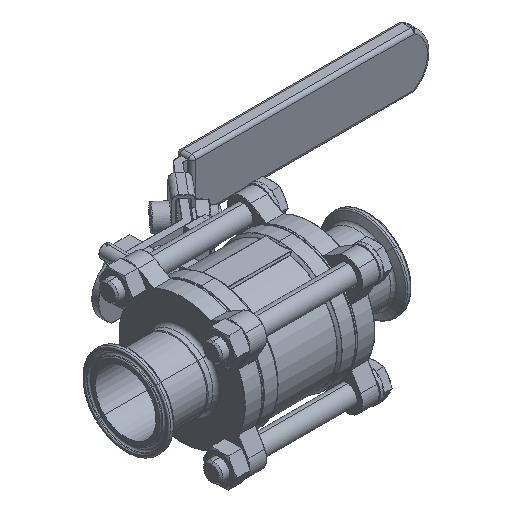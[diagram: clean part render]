
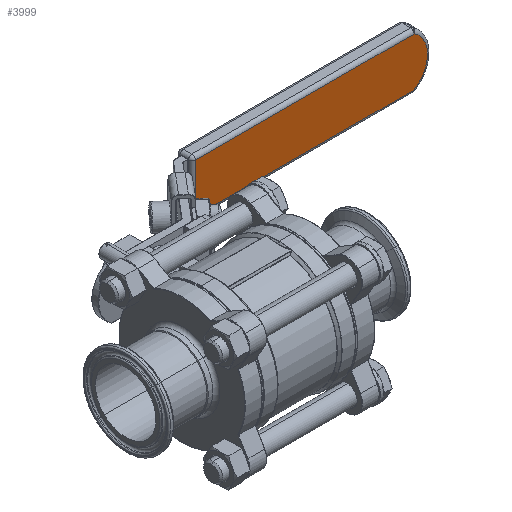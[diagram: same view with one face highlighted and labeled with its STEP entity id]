
A CAD part, isometric view. The second image highlights one B-rep face of the part: STEP entity #3999.
In plain terms, the highlighted planar face has unit normal (0, -1, 0) as drawn and (0, 0, 1) by its records, which use the part's own axes.
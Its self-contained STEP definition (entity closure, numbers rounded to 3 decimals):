
#82 = CARTESIAN_POINT ( 'NONE',  ( 2., -14., 4.5 ) ) ;
#982 = DIRECTION ( 'NONE',  ( 0., 0., 1. ) ) ;
#1022 = DIRECTION ( 'NONE',  ( 0., -1., 0. ) ) ;
#1070 = AXIS2_PLACEMENT_3D ( 'NONE', #10962, #982, #16937 ) ;
#1291 = EDGE_CURVE ( 'NONE', #12249, #3716, #9100, .T. ) ;
#1762 = VECTOR ( 'NONE', #11002, 1000. ) ;
#3573 = VECTOR ( 'NONE', #22914, 1000. ) ;
#3716 = VERTEX_POINT ( 'NONE', #82 ) ;
#3999 = ADVANCED_FACE ( 'NONE', ( #14356 ), #13598, .T. ) ;
#4102 = CARTESIAN_POINT ( 'NONE',  ( 2., 14., 4.5 ) ) ;
#4718 = EDGE_CURVE ( 'NONE', #18287, #12249, #18422, .T. ) ;
#5265 = DIRECTION ( 'NONE',  ( 1., 0., 0. ) ) ;
#7141 = ORIENTED_EDGE ( 'NONE', *, *, #14246, .T. ) ;
#7172 = ORIENTED_EDGE ( 'NONE', *, *, #1291, .T. ) ;
#7188 = CIRCLE ( 'NONE', #25395, 16.5 ) ;
#7727 = CIRCLE ( 'NONE', #11354, 16.5 ) ;
#8417 = CARTESIAN_POINT ( 'NONE',  ( 0., -14., 4.5 ) ) ;
#9100 = LINE ( 'NONE', #22955, #20130 ) ;
#10034 = DIRECTION ( 'NONE',  ( 1., 0., 0. ) ) ;
#10962 = CARTESIAN_POINT ( 'NONE',  ( 0., 0., 4.5 ) ) ;
#11002 = DIRECTION ( 'NONE',  ( -1., 0., 0. ) ) ;
#11214 = CARTESIAN_POINT ( 'NONE',  ( 128.232, 14., 4.5 ) ) ;
#11354 = AXIS2_PLACEMENT_3D ( 'NONE', #17269, #25528, #5265 ) ;
#12069 = ORIENTED_EDGE ( 'NONE', *, *, #20742, .T. ) ;
#12148 = EDGE_CURVE ( 'NONE', #26027, #24455, #7188, .T. ) ;
#12249 = VERTEX_POINT ( 'NONE', #4102 ) ;
#12987 = EDGE_LOOP ( 'NONE', ( #23184, #7172, #12069, #25112, #7141 ) ) ;
#13598 = PLANE ( 'NONE',  #1070 ) ;
#14246 = EDGE_CURVE ( 'NONE', #24455, #18287, #7727, .T. ) ;
#14356 = FACE_OUTER_BOUND ( 'NONE', #12987, .T. ) ;
#16937 = DIRECTION ( 'NONE',  ( 1., 0., 0. ) ) ;
#17269 = CARTESIAN_POINT ( 'NONE',  ( 119.5, 0., 4.5 ) ) ;
#18287 = VERTEX_POINT ( 'NONE', #11214 ) ;
#18422 = LINE ( 'NONE', #19472, #1762 ) ;
#19472 = CARTESIAN_POINT ( 'NONE',  ( 0., 14., 4.5 ) ) ;
#19817 = CARTESIAN_POINT ( 'NONE',  ( 136., 0., 4.5 ) ) ;
#20130 = VECTOR ( 'NONE', #1022, 1000. ) ;
#20232 = LINE ( 'NONE', #8417, #3573 ) ;
#20742 = EDGE_CURVE ( 'NONE', #3716, #26027, #20232, .T. ) ;
#21198 = CARTESIAN_POINT ( 'NONE',  ( 128.232, -14., 4.5 ) ) ;
#21636 = CARTESIAN_POINT ( 'NONE',  ( 119.5, 0., 4.5 ) ) ;
#22073 = DIRECTION ( 'NONE',  ( 0., 0., 1. ) ) ;
#22914 = DIRECTION ( 'NONE',  ( 1., 0., 0. ) ) ;
#22955 = CARTESIAN_POINT ( 'NONE',  ( 2., 0., 4.5 ) ) ;
#23184 = ORIENTED_EDGE ( 'NONE', *, *, #4718, .T. ) ;
#24455 = VERTEX_POINT ( 'NONE', #19817 ) ;
#25112 = ORIENTED_EDGE ( 'NONE', *, *, #12148, .T. ) ;
#25395 = AXIS2_PLACEMENT_3D ( 'NONE', #21636, #22073, #10034 ) ;
#25528 = DIRECTION ( 'NONE',  ( 0., 0., 1. ) ) ;
#26027 = VERTEX_POINT ( 'NONE', #21198 ) ;
